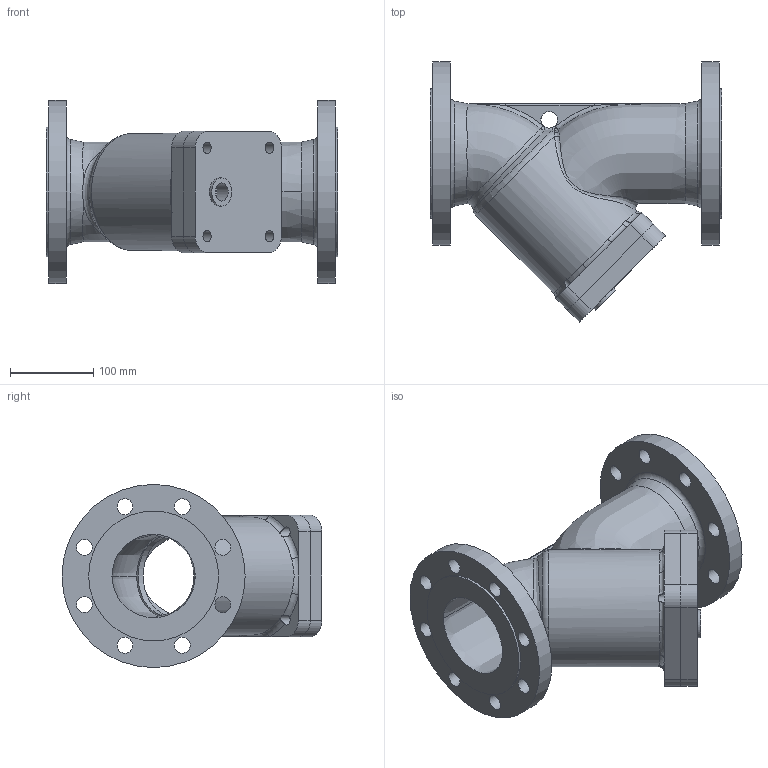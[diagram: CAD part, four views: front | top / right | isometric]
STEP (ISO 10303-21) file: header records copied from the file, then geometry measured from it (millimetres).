
FILE_DESCRIPTION(/* description */ ('STEP AP203'),/* implementation_level */ '2;1');
FILE_NAME(/* name */ '',/* time_stamp */ '2024-11-28T18:36:14+07:00',/* author */ ('Eva'),/* organization */ (''),/* preprocessor_version */ 'ST-DEVELOPER v20',/* originating_system */ 'Autodesk Inventor 2025',/* authorisation */ '');
FILE_SCHEMA (('AUTOMOTIVE_DESIGN { 1 0 10303 214 3 1 1 }'));
Products named in the file (4): 德标过滤器100; 德标过滤器100(2); 过滤器100体; 过滤器100盖
Assembly tree (3 placements, depth 3):
  德标过滤器100
    德标过滤器100(2)
      过滤器100体
      过滤器100盖
Bounding box: 350 x 312.23 x 220 mm (x, y, z)
Volume: 3246640.3 mm3; surface area: 534068.8 mm2
Topology: 2 solids, 2 shells, 140 faces, 373 edges, 238 vertices
Faces by surface type: cylinder 47, plane 38, bspline 37, torus 12, cone 4, sphere 2
Full cylindrical faces by diameter (mm): 12 x4, 14 x4, 19 x16, 20 x1, 21.952 x1, 34 x1, 95 x1, 105 x1, 106 x1, 108 x1, 121 x1, 141 x1, 156 x2, 220 x2
Entity records: 46605 total; most frequent: CARTESIAN_POINT 43099, ORIENTED_EDGE 740, DIRECTION 646, EDGE_CURVE 370, AXIS2_PLACEMENT_3D 274, VERTEX_POINT 238, EDGE_LOOP 200, CIRCLE 161
